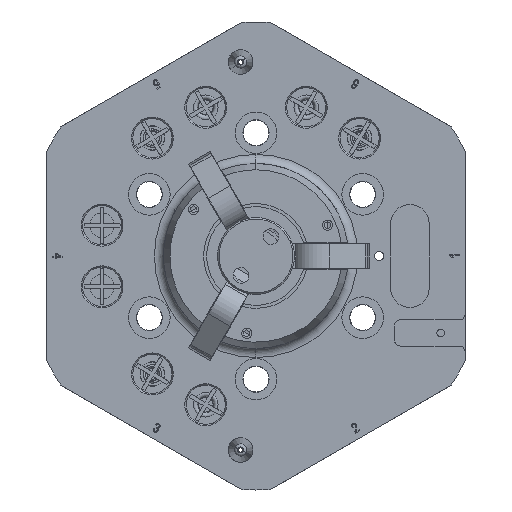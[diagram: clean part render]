
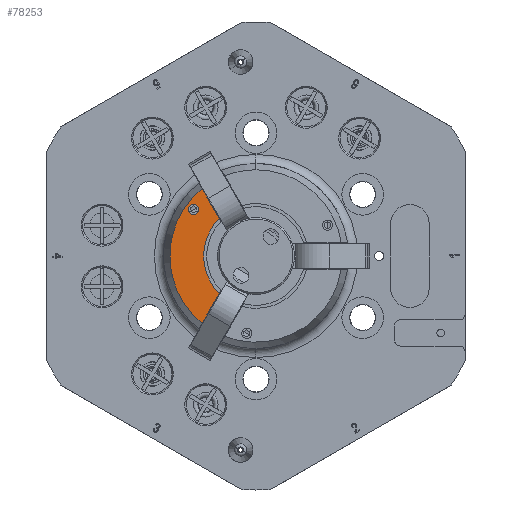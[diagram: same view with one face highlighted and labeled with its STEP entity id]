
A CAD part, front view. The second image highlights one B-rep face of the part: STEP entity #78253.
In plain terms, the highlighted planar face has unit normal (0, -1, 0).
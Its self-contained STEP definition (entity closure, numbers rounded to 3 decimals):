
#949 = CIRCLE ( 'NONE', #50057, 1.65 ) ;
#1038 = CARTESIAN_POINT ( 'NONE',  ( -17.517, -33.5, 21.841 ) ) ;
#1674 = CIRCLE ( 'NONE', #50785, 17. ) ;
#2012 = VERTEX_POINT ( 'NONE', #1038 ) ;
#5863 = DIRECTION ( 'NONE',  ( 0., -1., 0. ) ) ;
#8380 = ORIENTED_EDGE ( 'NONE', *, *, #74282, .F. ) ;
#11800 = CARTESIAN_POINT ( 'NONE',  ( 0., -33.5, 0. ) ) ;
#14132 = DIRECTION ( 'NONE',  ( 0., -1., 0. ) ) ;
#15173 = DIRECTION ( 'NONE',  ( 0.5, 0., -0.866 ) ) ;
#15491 = EDGE_CURVE ( 'NONE', #31799, #75229, #62734, .T. ) ;
#17664 = EDGE_CURVE ( 'NONE', #75229, #31799, #949, .T. ) ;
#17682 = CARTESIAN_POINT ( 'NONE',  ( 0., -33.5, 0. ) ) ;
#18119 = CARTESIAN_POINT ( 'NONE',  ( -20.288, -33.5, 15.133 ) ) ;
#18234 = AXIS2_PLACEMENT_3D ( 'NONE', #11800, #38612, #65373 ) ;
#21707 = CARTESIAN_POINT ( 'NONE',  ( -11.911, -33.5, -12.13 ) ) ;
#24554 = PLANE ( 'NONE',  #18234 ) ;
#24837 = AXIS2_PLACEMENT_3D ( 'NONE', #18119, #44944, #71667 ) ;
#31799 = VERTEX_POINT ( 'NONE', #67161 ) ;
#32659 = DIRECTION ( 'NONE',  ( 0., 0., -1. ) ) ;
#34062 = ORIENTED_EDGE ( 'NONE', *, *, #81085, .T. ) ;
#36334 = CARTESIAN_POINT ( 'NONE',  ( -17.517, -33.5, -21.841 ) ) ;
#38612 = DIRECTION ( 'NONE',  ( 0., -1., 0. ) ) ;
#40705 = ORIENTED_EDGE ( 'NONE', *, *, #15491, .F. ) ;
#40952 = AXIS2_PLACEMENT_3D ( 'NONE', #17682, #44496, #71211 ) ;
#40974 = DIRECTION ( 'NONE',  ( 0., 0., -1. ) ) ;
#42042 = EDGE_LOOP ( 'NONE', ( #40705, #54117 ) ) ;
#44496 = DIRECTION ( 'NONE',  ( 0., -1., 0. ) ) ;
#44944 = DIRECTION ( 'NONE',  ( 0., -1., 0. ) ) ;
#48519 = DIRECTION ( 'NONE',  ( -0.5, 0., -0.866 ) ) ;
#48601 = LINE ( 'NONE', #75265, #85808 ) ;
#50057 = AXIS2_PLACEMENT_3D ( 'NONE', #65999, #5863, #32659 ) ;
#50785 = AXIS2_PLACEMENT_3D ( 'NONE', #74231, #14132, #40974 ) ;
#54117 = ORIENTED_EDGE ( 'NONE', *, *, #17664, .F. ) ;
#58001 = FACE_BOUND ( 'NONE', #42042, .T. ) ;
#61080 = EDGE_CURVE ( 'NONE', #86469, #78633, #81740, .T. ) ;
#61136 = VECTOR ( 'NONE', #48519, 1000. ) ;
#61606 = EDGE_LOOP ( 'NONE', ( #8380, #34062, #70272, #82063 ) ) ;
#62734 = CIRCLE ( 'NONE', #24837, 1.65 ) ;
#63387 = CARTESIAN_POINT ( 'NONE',  ( -11.911, -33.5, -12.13 ) ) ;
#65373 = DIRECTION ( 'NONE',  ( 0., 0., -1. ) ) ;
#65999 = CARTESIAN_POINT ( 'NONE',  ( -20.288, -33.5, 15.133 ) ) ;
#67161 = CARTESIAN_POINT ( 'NONE',  ( -20.288, -33.5, 13.483 ) ) ;
#68954 = EDGE_CURVE ( 'NONE', #70790, #86469, #1674, .T. ) ;
#70272 = ORIENTED_EDGE ( 'NONE', *, *, #61080, .F. ) ;
#70790 = VERTEX_POINT ( 'NONE', #83397 ) ;
#71211 = DIRECTION ( 'NONE',  ( 0., 0., -1. ) ) ;
#71667 = DIRECTION ( 'NONE',  ( 0., 0., -1. ) ) ;
#73311 = CARTESIAN_POINT ( 'NONE',  ( -20.288, -33.5, 16.783 ) ) ;
#74231 = CARTESIAN_POINT ( 'NONE',  ( 0., -33.5, 0. ) ) ;
#74282 = EDGE_CURVE ( 'NONE', #2012, #70790, #48601, .T. ) ;
#75229 = VERTEX_POINT ( 'NONE', #73311 ) ;
#75265 = CARTESIAN_POINT ( 'NONE',  ( -11.911, -33.5, 12.13 ) ) ;
#78253 = ADVANCED_FACE ( 'NONE', ( #58001, #84601 ), #24554, .T. ) ;
#78633 = VERTEX_POINT ( 'NONE', #36334 ) ;
#78682 = CIRCLE ( 'NONE', #40952, 27.998 ) ;
#81085 = EDGE_CURVE ( 'NONE', #2012, #78633, #78682, .T. ) ;
#81740 = LINE ( 'NONE', #21707, #61136 ) ;
#82063 = ORIENTED_EDGE ( 'NONE', *, *, #68954, .F. ) ;
#83397 = CARTESIAN_POINT ( 'NONE',  ( -11.911, -33.5, 12.13 ) ) ;
#84601 = FACE_OUTER_BOUND ( 'NONE', #61606, .T. ) ;
#85808 = VECTOR ( 'NONE', #15173, 1000. ) ;
#86469 = VERTEX_POINT ( 'NONE', #63387 ) ;
